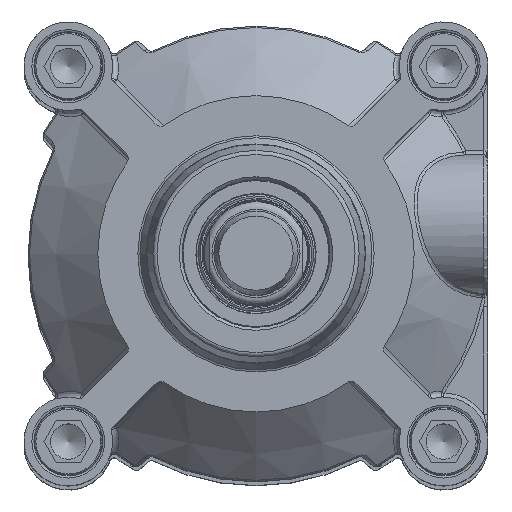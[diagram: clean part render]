
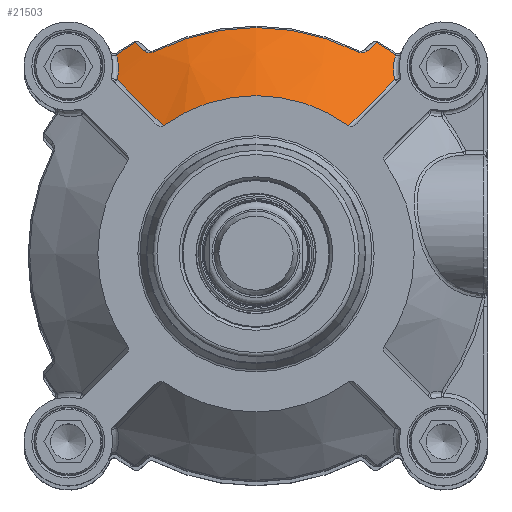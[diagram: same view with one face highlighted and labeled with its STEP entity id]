
A CAD part, top view. The second image highlights one B-rep face of the part: STEP entity #21503.
In plain terms, the highlighted conical face has half-angle 47.936 degrees and reference radius 47.75 mm.
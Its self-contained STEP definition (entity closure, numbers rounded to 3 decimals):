
#623=B_SPLINE_CURVE_WITH_KNOTS('',3,(#41392,#41393,#41394,#41395),
 .UNSPECIFIED.,.F.,.F.,(4,4),(-2.488,-0.418),
 .UNSPECIFIED.);
#627=B_SPLINE_CURVE_WITH_KNOTS('',3,(#41468,#41469,#41470,#41471,#41472),
 .UNSPECIFIED.,.F.,.F.,(4,1,4),(-8.955,-8.529,-8.209),
 .UNSPECIFIED.);
#629=B_SPLINE_CURVE_WITH_KNOTS('',3,(#41515,#41516,#41517,#41518,#41519),
 .UNSPECIFIED.,.F.,.F.,(4,1,4),(-0.268,-0.115,0.),
 .UNSPECIFIED.);
#632=B_SPLINE_CURVE_WITH_KNOTS('',3,(#41564,#41565,#41566,#41567,#41568),
 .UNSPECIFIED.,.F.,.F.,(4,1,4),(-0.268,-0.153,0.),
 .UNSPECIFIED.);
#633=B_SPLINE_CURVE_WITH_KNOTS('',3,(#41600,#41601,#41602,#41603),
 .UNSPECIFIED.,.F.,.F.,(4,4),(-1.565,-1.186),
 .UNSPECIFIED.);
#637=B_SPLINE_CURVE_WITH_KNOTS('',3,(#41680,#41681,#41682,#41683,#41684,
#41685,#41686,#41687),.UNSPECIFIED.,.F.,.F.,(4,2,2,4),(-8.752,
-8.48,-8.178,-8.005),.UNSPECIFIED.);
#640=B_SPLINE_CURVE_WITH_KNOTS('',3,(#41716,#41717,#41718,#41719),
 .UNSPECIFIED.,.F.,.F.,(4,4),(-2.108,-0.039),
 .UNSPECIFIED.);
#641=B_SPLINE_CURVE_WITH_KNOTS('',3,(#41767,#41768,#41769,#41770),
 .UNSPECIFIED.,.F.,.F.,(4,4),(-3.15,-2.771),
 .UNSPECIFIED.);
#5370=FACE_OUTER_BOUND('',#6972,.T.);
#6972=EDGE_LOOP('',(#17361,#17362,#17363,#17364,#17365,#17366,#17367,#17368,
#17369,#17370,#17371,#17372));
#8150=CIRCLE('',#23460,37.5);
#8238=CIRCLE('',#23586,57.67);
#8244=CIRCLE('',#23593,53.67);
#8251=CIRCLE('',#23602,57.67);
#9795=VERTEX_POINT('',#40343);
#9796=VERTEX_POINT('',#40344);
#9899=VERTEX_POINT('',#41364);
#9902=VERTEX_POINT('',#41425);
#9907=VERTEX_POINT('',#41482);
#9908=VERTEX_POINT('',#41513);
#9909=VERTEX_POINT('',#41514);
#9914=VERTEX_POINT('',#41561);
#9915=VERTEX_POINT('',#41563);
#9918=VERTEX_POINT('',#41577);
#9921=VERTEX_POINT('',#41635);
#9925=VERTEX_POINT('',#41653);
#12321=EDGE_CURVE('',#9795,#9796,#8150,.T.);
#12480=EDGE_CURVE('',#9796,#9899,#623,.T.);
#12486=EDGE_CURVE('',#9899,#9902,#627,.T.);
#12491=EDGE_CURVE('',#9902,#9907,#8238,.T.);
#12493=EDGE_CURVE('',#9908,#9909,#629,.T.);
#12499=EDGE_CURVE('',#9914,#9915,#632,.T.);
#12501=EDGE_CURVE('',#9909,#9914,#8244,.T.);
#12506=EDGE_CURVE('',#9915,#9918,#633,.T.);
#12512=EDGE_CURVE('',#9918,#9921,#8251,.T.);
#12517=EDGE_CURVE('',#9921,#9925,#637,.T.);
#12520=EDGE_CURVE('',#9925,#9795,#640,.T.);
#12535=EDGE_CURVE('',#9907,#9908,#641,.T.);
#17361=ORIENTED_EDGE('',*,*,#12520,.F.);
#17362=ORIENTED_EDGE('',*,*,#12517,.F.);
#17363=ORIENTED_EDGE('',*,*,#12512,.F.);
#17364=ORIENTED_EDGE('',*,*,#12506,.F.);
#17365=ORIENTED_EDGE('',*,*,#12499,.F.);
#17366=ORIENTED_EDGE('',*,*,#12501,.F.);
#17367=ORIENTED_EDGE('',*,*,#12493,.F.);
#17368=ORIENTED_EDGE('',*,*,#12535,.F.);
#17369=ORIENTED_EDGE('',*,*,#12491,.F.);
#17370=ORIENTED_EDGE('',*,*,#12486,.F.);
#17371=ORIENTED_EDGE('',*,*,#12480,.F.);
#17372=ORIENTED_EDGE('',*,*,#12321,.F.);
#19101=CONICAL_SURFACE('',#23617,47.75,47.936);
#21503=ADVANCED_FACE('',(#5370),#19101,.T.);
#23460=AXIS2_PLACEMENT_3D('',#40345,#27815,#27816);
#23586=AXIS2_PLACEMENT_3D('',#41486,#28094,#28095);
#23593=AXIS2_PLACEMENT_3D('',#41571,#28108,#28109);
#23602=AXIS2_PLACEMENT_3D('',#41647,#28126,#28127);
#23617=AXIS2_PLACEMENT_3D('',#41775,#28166,#28167);
#27815=DIRECTION('center_axis',(0.,0.,1.));
#27816=DIRECTION('ref_axis',(1.,0.,0.));
#28094=DIRECTION('center_axis',(0.,0.,-1.));
#28095=DIRECTION('ref_axis',(-0.54,0.842,0.));
#28108=DIRECTION('center_axis',(0.,0.,-1.));
#28109=DIRECTION('ref_axis',(0.,1.,0.));
#28126=DIRECTION('center_axis',(0.,0.,-1.));
#28127=DIRECTION('ref_axis',(0.54,0.842,0.));
#28166=DIRECTION('center_axis',(0.,0.,-1.));
#28167=DIRECTION('ref_axis',(0.707,-0.707,0.));
#40343=CARTESIAN_POINT('',(22.019,30.355,48.5));
#40344=CARTESIAN_POINT('',(-22.019,30.355,48.5));
#40345=CARTESIAN_POINT('Origin',(0.,0.,48.5));
#41364=CARTESIAN_POINT('',(-32.903,41.282,34.702));
#41392=CARTESIAN_POINT('Ctrl Pts',(-22.019,30.355,48.5));
#41393=CARTESIAN_POINT('Ctrl Pts',(-25.649,34.005,43.91));
#41394=CARTESIAN_POINT('Ctrl Pts',(-29.276,37.645,39.308));
#41395=CARTESIAN_POINT('Ctrl Pts',(-32.903,41.282,34.702));
#41425=CARTESIAN_POINT('',(-33.093,47.23,30.298));
#41468=CARTESIAN_POINT('Ctrl Pts',(-32.903,41.282,34.702));
#41469=CARTESIAN_POINT('Ctrl Pts',(-32.621,42.483,34.013));
#41470=CARTESIAN_POINT('Ctrl Pts',(-32.494,44.567,32.574));
#41471=CARTESIAN_POINT('Ctrl Pts',(-32.859,46.452,30.994));
#41472=CARTESIAN_POINT('Ctrl Pts',(-33.093,47.23,30.298));
#41482=CARTESIAN_POINT('',(-28.682,50.032,30.298));
#41486=CARTESIAN_POINT('Origin',(0.,0.,30.298));
#41513=CARTESIAN_POINT('',(-26.49,48.141,32.754));
#41514=CARTESIAN_POINT('',(-24.254,47.877,33.908));
#41515=CARTESIAN_POINT('Ctrl Pts',(-26.49,48.141,32.754));
#41516=CARTESIAN_POINT('Ctrl Pts',(-26.195,47.886,33.084));
#41517=CARTESIAN_POINT('Ctrl Pts',(-25.516,47.556,33.641));
#41518=CARTESIAN_POINT('Ctrl Pts',(-24.6,47.702,33.908));
#41519=CARTESIAN_POINT('Ctrl Pts',(-24.254,47.877,33.908));
#41561=CARTESIAN_POINT('',(24.254,47.877,33.908));
#41563=CARTESIAN_POINT('',(26.49,48.141,32.754));
#41564=CARTESIAN_POINT('Ctrl Pts',(24.254,47.877,33.908));
#41565=CARTESIAN_POINT('Ctrl Pts',(24.6,47.702,33.908));
#41566=CARTESIAN_POINT('Ctrl Pts',(25.508,47.555,33.645));
#41567=CARTESIAN_POINT('Ctrl Pts',(26.195,47.886,33.084));
#41568=CARTESIAN_POINT('Ctrl Pts',(26.49,48.141,32.754));
#41571=CARTESIAN_POINT('Origin',(0.,0.,33.908));
#41577=CARTESIAN_POINT('',(28.682,50.032,30.298));
#41600=CARTESIAN_POINT('Ctrl Pts',(26.49,48.141,32.754));
#41601=CARTESIAN_POINT('Ctrl Pts',(27.222,48.772,31.937));
#41602=CARTESIAN_POINT('Ctrl Pts',(27.953,49.402,31.118));
#41603=CARTESIAN_POINT('Ctrl Pts',(28.682,50.032,30.298));
#41635=CARTESIAN_POINT('',(33.093,47.23,30.298));
#41647=CARTESIAN_POINT('Origin',(0.,0.,30.298));
#41653=CARTESIAN_POINT('',(32.903,41.282,34.702));
#41680=CARTESIAN_POINT('Ctrl Pts',(33.093,47.23,30.298));
#41681=CARTESIAN_POINT('Ctrl Pts',(32.893,46.566,30.892));
#41682=CARTESIAN_POINT('Ctrl Pts',(32.75,45.877,31.475));
#41683=CARTESIAN_POINT('Ctrl Pts',(32.585,44.383,32.657));
#41684=CARTESIAN_POINT('Ctrl Pts',(32.575,43.565,33.256));
#41685=CARTESIAN_POINT('Ctrl Pts',(32.709,42.255,34.121));
#41686=CARTESIAN_POINT('Ctrl Pts',(32.788,41.769,34.422));
#41687=CARTESIAN_POINT('Ctrl Pts',(32.903,41.282,34.702));
#41716=CARTESIAN_POINT('Ctrl Pts',(32.903,41.282,34.702));
#41717=CARTESIAN_POINT('Ctrl Pts',(29.276,37.645,39.308));
#41718=CARTESIAN_POINT('Ctrl Pts',(25.649,34.005,43.91));
#41719=CARTESIAN_POINT('Ctrl Pts',(22.019,30.355,48.5));
#41767=CARTESIAN_POINT('Ctrl Pts',(-28.682,50.032,30.298));
#41768=CARTESIAN_POINT('Ctrl Pts',(-27.953,49.402,31.118));
#41769=CARTESIAN_POINT('Ctrl Pts',(-27.222,48.772,31.937));
#41770=CARTESIAN_POINT('Ctrl Pts',(-26.49,48.141,32.754));
#41775=CARTESIAN_POINT('Origin',(0.,0.,39.25));
